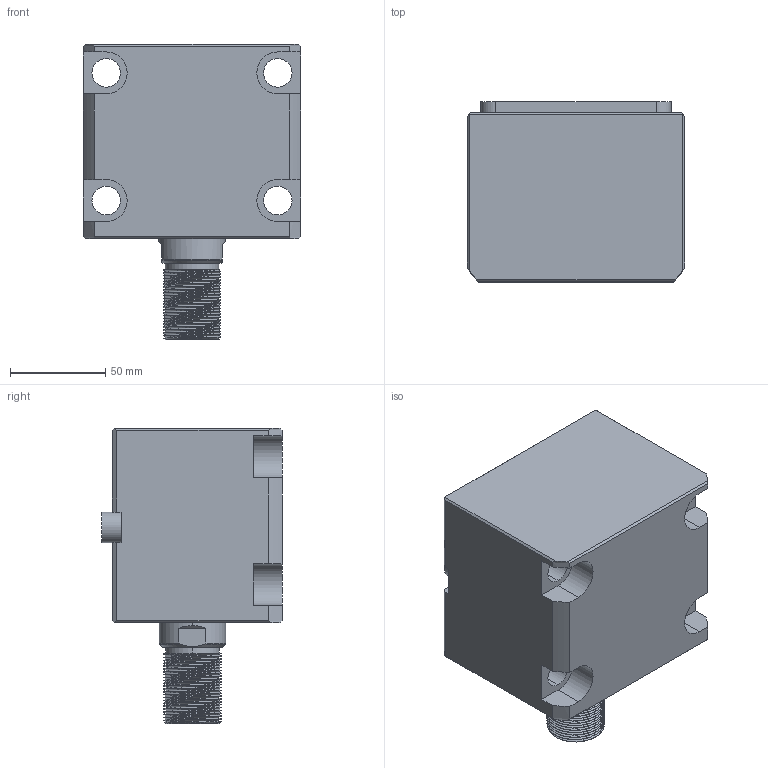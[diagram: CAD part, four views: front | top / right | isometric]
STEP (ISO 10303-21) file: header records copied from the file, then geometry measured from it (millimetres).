
FILE_DESCRIPTION (( 'STEP AP214' ), '1' );
FILE_NAME ('chtb-lam63x35w_asm.STEP', '2018-05-22T03:35:45', ( 'Windows' ), ( 'Microsoft' ), 'SwSTEP 2.0', 'SolidWorks 2015', '' );
FILE_SCHEMA (( 'AUTOMOTIVE_DESIGN' ));
Length unit declared in the file: millimetre
Products named in the file (5): chtb-lam63x35w_asm; CHTB-LAM63X35NBT; CHTB-LA63PJ; CHTB63X35WHSG; CHTB-63QG
Assembly tree (4 placements, depth 2):
  chtb-lam63x35w_asm
    CHTB-63QG
    CHTB63X35WHSG
    CHTB-LA63PJ
    CHTB-LAM63X35NBT
Bounding box: 114 x 94.5 x 155 mm (x, y, z)
Volume: 922703.9 mm3; surface area: 145426.4 mm2
Topology: 4 solids, 4 shells, 236 faces, 696 edges, 473 vertices
Faces by surface type: cylinder 148, plane 58, bspline 15, cone 9, torus 6
Entity records: 23566 total; most frequent: CARTESIAN_POINT 17780, ORIENTED_EDGE 1384, DIRECTION 946, EDGE_CURVE 692, VERTEX_POINT 473, AXIS2_PLACEMENT_3D 344, EDGE_LOOP 259, LINE 258
